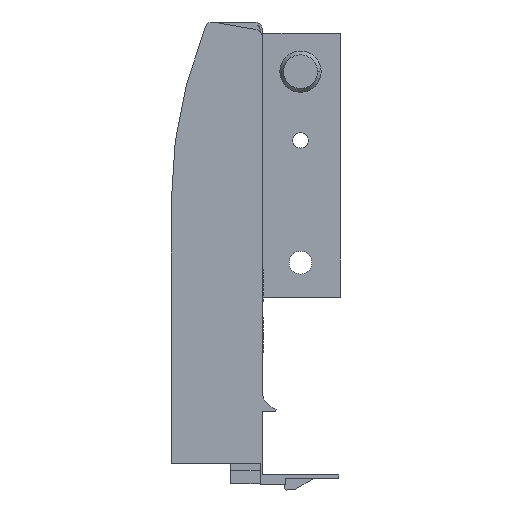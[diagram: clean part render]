
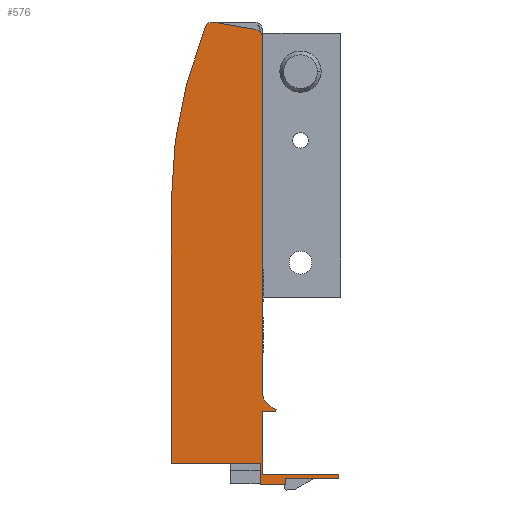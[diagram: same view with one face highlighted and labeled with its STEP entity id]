
A CAD part, front view. The second image highlights one B-rep face of the part: STEP entity #576.
In plain terms, the highlighted planar face has unit normal (0, -1, 0).
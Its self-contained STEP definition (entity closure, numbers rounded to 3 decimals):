
#17 = CARTESIAN_POINT ( 'NONE',  ( 21.5, 0., 98.06 ) ) ;
#34 = CARTESIAN_POINT ( 'NONE',  ( 8.847, 0., 101.97 ) ) ;
#85 = CARTESIAN_POINT ( 'NONE',  ( 19.5, 0., 98.06 ) ) ;
#109 = DIRECTION ( 'NONE',  ( -0.268, 0., -0.963 ) ) ;
#111 = CARTESIAN_POINT ( 'NONE',  ( 25.161, 0., 0.578 ) ) ;
#113 = DIRECTION ( 'NONE',  ( 0., 0., -1. ) ) ;
#127 = DIRECTION ( 'NONE',  ( 0., 1., 0. ) ) ;
#132 = DIRECTION ( 'NONE',  ( -1., 0., 0. ) ) ;
#134 = DIRECTION ( 'NONE',  ( 0.985, 0., -0.174 ) ) ;
#159 = DIRECTION ( 'NONE',  ( 0., 0., 1. ) ) ;
#164 = CARTESIAN_POINT ( 'NONE',  ( 20.9, 0., -19.1 ) ) ;
#413 = DIRECTION ( 'NONE',  ( 0., 0., 1. ) ) ;
#419 = CARTESIAN_POINT ( 'NONE',  ( -2.3, 0., -13.5 ) ) ;
#489 = ORIENTED_EDGE ( 'NONE', *, *, #2643, .F. ) ;
#491 = ORIENTED_EDGE ( 'NONE', *, *, #2418, .F. ) ;
#492 = ORIENTED_EDGE ( 'NONE', *, *, #2441, .F. ) ;
#493 = ORIENTED_EDGE ( 'NONE', *, *, #2422, .F. ) ;
#495 = ORIENTED_EDGE ( 'NONE', *, *, #2620, .F. ) ;
#496 = ORIENTED_EDGE ( 'NONE', *, *, #2547, .F. ) ;
#497 = ORIENTED_EDGE ( 'NONE', *, *, #2561, .F. ) ;
#498 = ORIENTED_EDGE ( 'NONE', *, *, #2597, .F. ) ;
#501 = ORIENTED_EDGE ( 'NONE', *, *, #2438, .F. ) ;
#506 = ORIENTED_EDGE ( 'NONE', *, *, #2464, .F. ) ;
#508 = ORIENTED_EDGE ( 'NONE', *, *, #2513, .F. ) ;
#509 = ORIENTED_EDGE ( 'NONE', *, *, #2556, .F. ) ;
#510 = ORIENTED_EDGE ( 'NONE', *, *, #2511, .F. ) ;
#511 = ORIENTED_EDGE ( 'NONE', *, *, #2446, .F. ) ;
#516 = ORIENTED_EDGE ( 'NONE', *, *, #2357, .F. ) ;
#519 = ORIENTED_EDGE ( 'NONE', *, *, #2389, .F. ) ;
#520 = ORIENTED_EDGE ( 'NONE', *, *, #2395, .F. ) ;
#576 = ADVANCED_FACE ( 'NONE', ( #999 ), #1549, .F. ) ;
#648 = DIRECTION ( 'NONE',  ( -1., 0., 0. ) ) ;
#675 = AXIS2_PLACEMENT_3D ( 'NONE', #2695, #2696, #2697 ) ;
#695 = AXIS2_PLACEMENT_3D ( 'NONE', #2068, #2071, #2072 ) ;
#698 = AXIS2_PLACEMENT_3D ( 'NONE', #85, #127, #132 ) ;
#900 = EDGE_LOOP ( 'NONE', ( #498, #497, #496, #510, #493, #489, #506, #495, #501, #492, #508, #519, #520, #511, #491, #509, #516 ) ) ;
#999 = FACE_OUTER_BOUND ( 'NONE', #900, .T. ) ;
#1112 = CIRCLE ( 'NONE', #2491, 5. ) ;
#1124 = LINE ( 'NONE', #1987, #1131 ) ;
#1128 = VECTOR ( 'NONE', #2008, 1000. ) ;
#1131 = VECTOR ( 'NONE', #1992, 1000. ) ;
#1139 = LINE ( 'NONE', #2002, #1128 ) ;
#1173 = VECTOR ( 'NONE', #2062, 1000. ) ;
#1175 = LINE ( 'NONE', #2061, #1173 ) ;
#1184 = CIRCLE ( 'NONE', #695, 120.6 ) ;
#1189 = LINE ( 'NONE', #2092, #1200 ) ;
#1191 = LINE ( 'NONE', #2079, #1195 ) ;
#1195 = VECTOR ( 'NONE', #2089, 1000. ) ;
#1200 = VECTOR ( 'NONE', #2096, 1000. ) ;
#1202 = VECTOR ( 'NONE', #2107, 1000. ) ;
#1208 = LINE ( 'NONE', #2101, #1202 ) ;
#1231 = LINE ( 'NONE', #2138, #1232 ) ;
#1232 = VECTOR ( 'NONE', #2139, 1000. ) ;
#1275 = VECTOR ( 'NONE', #648, 1000. ) ;
#1280 = LINE ( 'NONE', #2692, #1275 ) ;
#1281 = CIRCLE ( 'NONE', #675, 2. ) ;
#1306 = LINE ( 'NONE', #34, #1316 ) ;
#1316 = VECTOR ( 'NONE', #134, 1000. ) ;
#1331 = LINE ( 'NONE', #111, #1332 ) ;
#1332 = VECTOR ( 'NONE', #109, 1000. ) ;
#1373 = VERTEX_POINT ( 'NONE', #1835 ) ;
#1374 = VERTEX_POINT ( 'NONE', #1836 ) ;
#1401 = VERTEX_POINT ( 'NONE', #1863 ) ;
#1402 = VERTEX_POINT ( 'NONE', #1864 ) ;
#1423 = VERTEX_POINT ( 'NONE', #1885 ) ;
#1424 = VERTEX_POINT ( 'NONE', #1886 ) ;
#1428 = VERTEX_POINT ( 'NONE', #1890 ) ;
#1436 = VERTEX_POINT ( 'NONE', #1898 ) ;
#1437 = VERTEX_POINT ( 'NONE', #1899 ) ;
#1438 = VERTEX_POINT ( 'NONE', #1900 ) ;
#1439 = VERTEX_POINT ( 'NONE', #1901 ) ;
#1440 = VERTEX_POINT ( 'NONE', #1902 ) ;
#1441 = VERTEX_POINT ( 'NONE', #1903 ) ;
#1442 = VERTEX_POINT ( 'NONE', #1904 ) ;
#1443 = VERTEX_POINT ( 'NONE', #1905 ) ;
#1444 = VERTEX_POINT ( 'NONE', #1906 ) ;
#1445 = VERTEX_POINT ( 'NONE', #1907 ) ;
#1549 = PLANE ( 'NONE',  #2432 ) ;
#1552 = CARTESIAN_POINT ( 'NONE',  ( 8.75, 0., 61.5 ) ) ;
#1558 = DIRECTION ( 'NONE',  ( 0., 1., 0. ) ) ;
#1559 = DIRECTION ( 'NONE',  ( 0., 0., 1. ) ) ;
#1835 = CARTESIAN_POINT ( 'NONE',  ( 19.847, 0., 100.03 ) ) ;
#1836 = CARTESIAN_POINT ( 'NONE',  ( 21.5, 0., 98.06 ) ) ;
#1863 = CARTESIAN_POINT ( 'NONE',  ( 21.5, 0., 0. ) ) ;
#1864 = CARTESIAN_POINT ( 'NONE',  ( 21.5, 0., -16.5 ) ) ;
#1885 = CARTESIAN_POINT ( 'NONE',  ( 20.9, 0., -13.5 ) ) ;
#1886 = CARTESIAN_POINT ( 'NONE',  ( -2.3, 0., -13.5 ) ) ;
#1890 = CARTESIAN_POINT ( 'NONE',  ( 20.9, 0., -19.1 ) ) ;
#1898 = CARTESIAN_POINT ( 'NONE',  ( 21.5, 0., 5.395 ) ) ;
#1899 = CARTESIAN_POINT ( 'NONE',  ( 8.847, 0., 101.97 ) ) ;
#1900 = CARTESIAN_POINT ( 'NONE',  ( 6.648, 0., 100.756 ) ) ;
#1901 = CARTESIAN_POINT ( 'NONE',  ( -2.3, 0., 55.168 ) ) ;
#1902 = CARTESIAN_POINT ( 'NONE',  ( 27.599, 0., -19.1 ) ) ;
#1903 = CARTESIAN_POINT ( 'NONE',  ( 27.599, 0., -17.528 ) ) ;
#1904 = CARTESIAN_POINT ( 'NONE',  ( 41.499, 0., -17.528 ) ) ;
#1905 = CARTESIAN_POINT ( 'NONE',  ( 41.499, 0., -16.5 ) ) ;
#1906 = CARTESIAN_POINT ( 'NONE',  ( 25., 0., 0. ) ) ;
#1907 = CARTESIAN_POINT ( 'NONE',  ( 25.161, 0., 0.578 ) ) ;
#1965 = CARTESIAN_POINT ( 'NONE',  ( 26.5, 0., 5.395 ) ) ;
#1966 = DIRECTION ( 'NONE',  ( 0., -1., 0. ) ) ;
#1967 = DIRECTION ( 'NONE',  ( -1., 0., 0. ) ) ;
#1987 = CARTESIAN_POINT ( 'NONE',  ( 41.499, 0., -16.5 ) ) ;
#1992 = DIRECTION ( 'NONE',  ( 0., 0., -1. ) ) ;
#2002 = CARTESIAN_POINT ( 'NONE',  ( 21.5, 0., -16.5 ) ) ;
#2008 = DIRECTION ( 'NONE',  ( 1., 0., 0. ) ) ;
#2061 = CARTESIAN_POINT ( 'NONE',  ( 25., 0., 0. ) ) ;
#2062 = DIRECTION ( 'NONE',  ( -1., 0., 0. ) ) ;
#2068 = CARTESIAN_POINT ( 'NONE',  ( 118.3, 0., 55.168 ) ) ;
#2071 = DIRECTION ( 'NONE',  ( 0., 1., 0. ) ) ;
#2072 = DIRECTION ( 'NONE',  ( -1., 0., 0. ) ) ;
#2079 = CARTESIAN_POINT ( 'NONE',  ( 27.599, 0., -19.1 ) ) ;
#2089 = DIRECTION ( 'NONE',  ( -1., 0., 0. ) ) ;
#2092 = CARTESIAN_POINT ( 'NONE',  ( 27.599, 0., -17.528 ) ) ;
#2096 = DIRECTION ( 'NONE',  ( 0., 0., -1. ) ) ;
#2101 = CARTESIAN_POINT ( 'NONE',  ( 21.5, 0., 0. ) ) ;
#2107 = DIRECTION ( 'NONE',  ( 0., 0., -1. ) ) ;
#2138 = CARTESIAN_POINT ( 'NONE',  ( -2.3, 0., -13.5 ) ) ;
#2139 = DIRECTION ( 'NONE',  ( -1., 0., 0. ) ) ;
#2200 = CIRCLE ( 'NONE', #698, 2. ) ;
#2201 = VECTOR ( 'NONE', #113, 1000. ) ;
#2224 = LINE ( 'NONE', #17, #2201 ) ;
#2264 = LINE ( 'NONE', #164, #2265 ) ;
#2265 = VECTOR ( 'NONE', #159, 1000. ) ;
#2298 = LINE ( 'NONE', #419, #2299 ) ;
#2299 = VECTOR ( 'NONE', #413, 1000. ) ;
#2357 = EDGE_CURVE ( 'NONE', #1436, #1445, #1112, .T. ) ;
#2389 = EDGE_CURVE ( 'NONE', #1443, #1442, #1124, .T. ) ;
#2395 = EDGE_CURVE ( 'NONE', #1402, #1443, #1139, .T. ) ;
#2418 = EDGE_CURVE ( 'NONE', #1444, #1401, #1175, .T. ) ;
#2422 = EDGE_CURVE ( 'NONE', #1439, #1438, #1184, .T. ) ;
#2432 = AXIS2_PLACEMENT_3D ( 'NONE', #1552, #1558, #1559 ) ;
#2438 = EDGE_CURVE ( 'NONE', #1440, #1428, #1191, .T. ) ;
#2441 = EDGE_CURVE ( 'NONE', #1441, #1440, #1189, .T. ) ;
#2446 = EDGE_CURVE ( 'NONE', #1401, #1402, #1208, .T. ) ;
#2464 = EDGE_CURVE ( 'NONE', #1423, #1424, #1231, .T. ) ;
#2491 = AXIS2_PLACEMENT_3D ( 'NONE', #1965, #1966, #1967 ) ;
#2511 = EDGE_CURVE ( 'NONE', #1438, #1437, #1281, .T. ) ;
#2513 = EDGE_CURVE ( 'NONE', #1442, #1441, #1280, .T. ) ;
#2547 = EDGE_CURVE ( 'NONE', #1437, #1373, #1306, .T. ) ;
#2556 = EDGE_CURVE ( 'NONE', #1445, #1444, #1331, .T. ) ;
#2561 = EDGE_CURVE ( 'NONE', #1373, #1374, #2200, .T. ) ;
#2597 = EDGE_CURVE ( 'NONE', #1374, #1436, #2224, .T. ) ;
#2620 = EDGE_CURVE ( 'NONE', #1428, #1423, #2264, .T. ) ;
#2643 = EDGE_CURVE ( 'NONE', #1424, #1439, #2298, .T. ) ;
#2692 = CARTESIAN_POINT ( 'NONE',  ( 41.499, 0., -17.528 ) ) ;
#2695 = CARTESIAN_POINT ( 'NONE',  ( 8.5, 0., 100. ) ) ;
#2696 = DIRECTION ( 'NONE',  ( 0., 1., 0. ) ) ;
#2697 = DIRECTION ( 'NONE',  ( -1., 0., 0. ) ) ;
